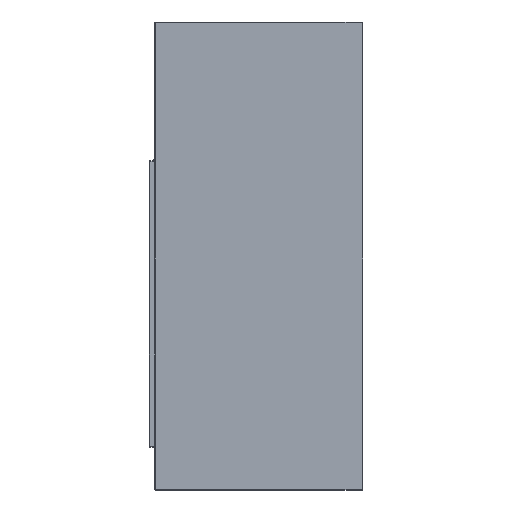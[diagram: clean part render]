
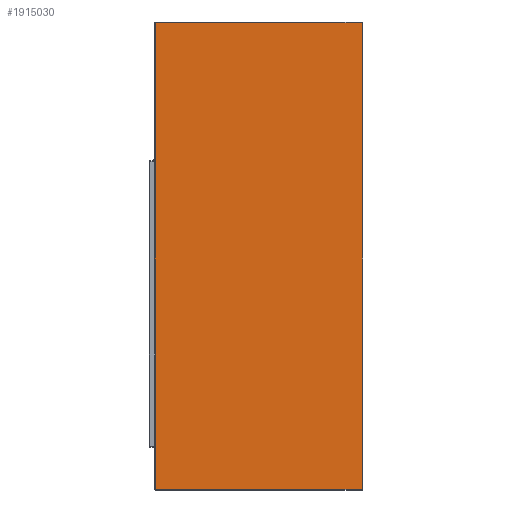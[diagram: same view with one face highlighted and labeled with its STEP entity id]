
A CAD part, top view. The second image highlights one B-rep face of the part: STEP entity #1915030.
In plain terms, the highlighted free-form (B-spline) face has degree [1, 1] with [2, 2] control points.
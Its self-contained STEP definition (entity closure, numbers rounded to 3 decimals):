
#1914680 = CARTESIAN_POINT ('', (-398., 898., 363.425));
#1914690 = VERTEX_POINT ('', #1914680);
#1914700 = CARTESIAN_POINT ('', (-398., -898., 363.425));
#1914710 = VERTEX_POINT ('', #1914700);
#1914720 = CARTESIAN_POINT ('', (-398., 898., 363.425));
#1914730 = CARTESIAN_POINT ('', (-398., -898., 363.425));
#1914740 = (
   BOUNDED_CURVE ()
   B_SPLINE_CURVE (1, (#1914720, #1914730), .UNSPECIFIED., .F., .U.)
   B_SPLINE_CURVE_WITH_KNOTS ((2, 2), (0., 1796.), .UNSPECIFIED.)
   CURVE ()
   GEOMETRIC_REPRESENTATION_ITEM ()
   RATIONAL_B_SPLINE_CURVE ((1., 1.))
   REPRESENTATION_ITEM ('')
);
#1914750 = EDGE_CURVE ('', #1914690, #1914710, #1914740, .T.);
#1914760 = ORIENTED_EDGE ('', *, *, #1914750, .T.);
#1914770 = CARTESIAN_POINT ('', (398., -898., 363.425));
#1914780 = VERTEX_POINT ('', #1914770);
#1914790 = CARTESIAN_POINT ('', (-398., -898., 363.425));
#1914800 = CARTESIAN_POINT ('', (398., -898., 363.425));
#1914810 = (
   BOUNDED_CURVE ()
   B_SPLINE_CURVE (1, (#1914790, #1914800), .UNSPECIFIED., .F., .U.)
   B_SPLINE_CURVE_WITH_KNOTS ((2, 2), (0., 796.), .UNSPECIFIED.)
   CURVE ()
   GEOMETRIC_REPRESENTATION_ITEM ()
   RATIONAL_B_SPLINE_CURVE ((1., 1.))
   REPRESENTATION_ITEM ('')
);
#1914820 = EDGE_CURVE ('', #1914710, #1914780, #1914810, .T.);
#1914830 = ORIENTED_EDGE ('', *, *, #1914820, .T.);
#1914840 = CARTESIAN_POINT ('', (398., 898., 363.425));
#1914850 = VERTEX_POINT ('', #1914840);
#1914860 = CARTESIAN_POINT ('', (398., -898., 363.425));
#1914870 = CARTESIAN_POINT ('', (398., 898., 363.425));
#1914880 = (
   BOUNDED_CURVE ()
   B_SPLINE_CURVE (1, (#1914860, #1914870), .UNSPECIFIED., .F., .U.)
   B_SPLINE_CURVE_WITH_KNOTS ((2, 2), (0., 1796.), .UNSPECIFIED.)
   CURVE ()
   GEOMETRIC_REPRESENTATION_ITEM ()
   RATIONAL_B_SPLINE_CURVE ((1., 1.))
   REPRESENTATION_ITEM ('')
);
#1914890 = EDGE_CURVE ('', #1914780, #1914850, #1914880, .T.);
#1914900 = ORIENTED_EDGE ('', *, *, #1914890, .T.);
#1914910 = CARTESIAN_POINT ('', (398., 898., 363.425));
#1914920 = CARTESIAN_POINT ('', (-398., 898., 363.425));
#1914930 = (
   BOUNDED_CURVE ()
   B_SPLINE_CURVE (1, (#1914910, #1914920), .UNSPECIFIED., .F., .U.)
   B_SPLINE_CURVE_WITH_KNOTS ((2, 2), (0., 796.), .UNSPECIFIED.)
   CURVE ()
   GEOMETRIC_REPRESENTATION_ITEM ()
   RATIONAL_B_SPLINE_CURVE ((1., 1.))
   REPRESENTATION_ITEM ('')
);
#1914940 = EDGE_CURVE ('', #1914850, #1914690, #1914930, .T.);
#1914950 = ORIENTED_EDGE ('', *, *, #1914940, .T.);
#1914960 = EDGE_LOOP ('', (#1914760, #1914830, #1914900, #1914950));
#1914970 = FACE_OUTER_BOUND ('', #1914960, .T.);
#1914980 = CARTESIAN_POINT ('', (1514.332, -2271.497, 363.425));
#1914990 = CARTESIAN_POINT ('', (-1514.332, -2271.497, 363.425));
#1915000 = CARTESIAN_POINT ('', (1514.332, 2271.497, 363.425));
#1915010 = CARTESIAN_POINT ('', (-1514.332, 2271.497, 363.425));
#1915020 = B_SPLINE_SURFACE_WITH_KNOTS ('', 1, 1, ((#1914980, #1914990), (#1915000, #1915010)), .UNSPECIFIED., .F., .F., .U., (2, 2), (2, 2), (0., 1.), (0., 1.), .UNSPECIFIED.);
#1915030 = ADVANCED_FACE ('', (#1914970), #1915020, .T.);
